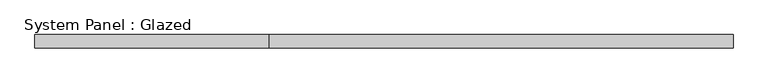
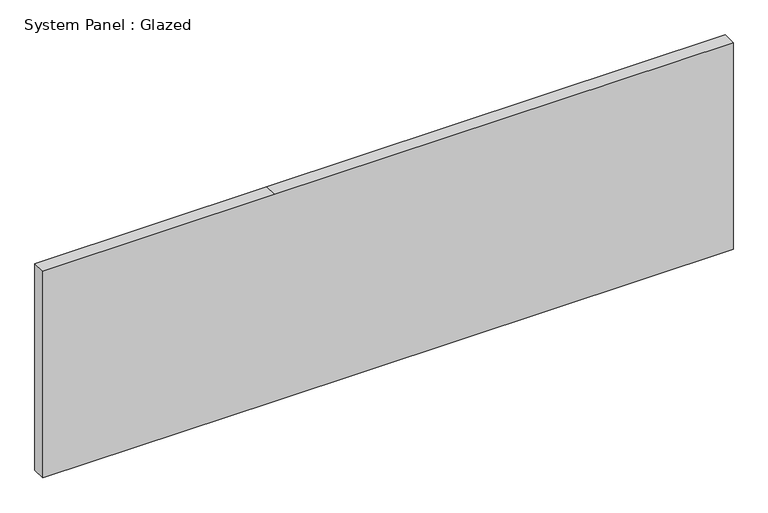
"""IFC4 building model written with IfcOpenShell, lengths in millimetres: plate geometry, System Panel : Glazed."""

from ifc_helpers import new_model, si_unit, frame, origin, place, context, project, spatial, polyline, outline, extrude, source, transform, mapped, element, save


def system_panel_glazed_886dd139(model_context):
    return source(origin(), model_context, "Body", "SweptSolid", [
        extrude(outline(polyline([(0.0, -643.17875), (0.0, -210.97875), (0.0, 643.17875), (407.2, 643.17875), (407.2, -210.97875), (407.2, -643.17875), (0.0, -643.17875)])), frame((0.0, 24.5, 0.0), z_axis=(0.0, 1.0, 0.0), x_axis=(0.0, 0.0, 1.0)), (0.0, 0.0, 1.0), 25.0),
    ])


if __name__ == "__main__":
    model = new_model("IFC4")
    model_context = context("Model", 3, world=origin())
    ifc_project = project(units=[si_unit("LENGTHUNIT", "METRE", prefix="MILLI")], contexts=[model_context])
    site = spatial("IfcSite", under=ifc_project)
    building = spatial("IfcBuilding", under=site)
    placement = place(None, origin())
    system_panel_glazed_shape = system_panel_glazed_886dd139(model_context)
    element("IfcPlate", 1, ObjectType="System Panel : Glazed", at=placement, inside=building, context=model_context, shape_type="MappedRepresentation", body=[
        mapped(system_panel_glazed_shape, transform((0.0, 0.0, 0.0), x_axis=(1.0, 0.0, 0.0), y_axis=(0.0, 1.0, 0.0), z_axis=(0.0, 0.0, 1.0))),
    ])
    save(model, "model.ifc")
